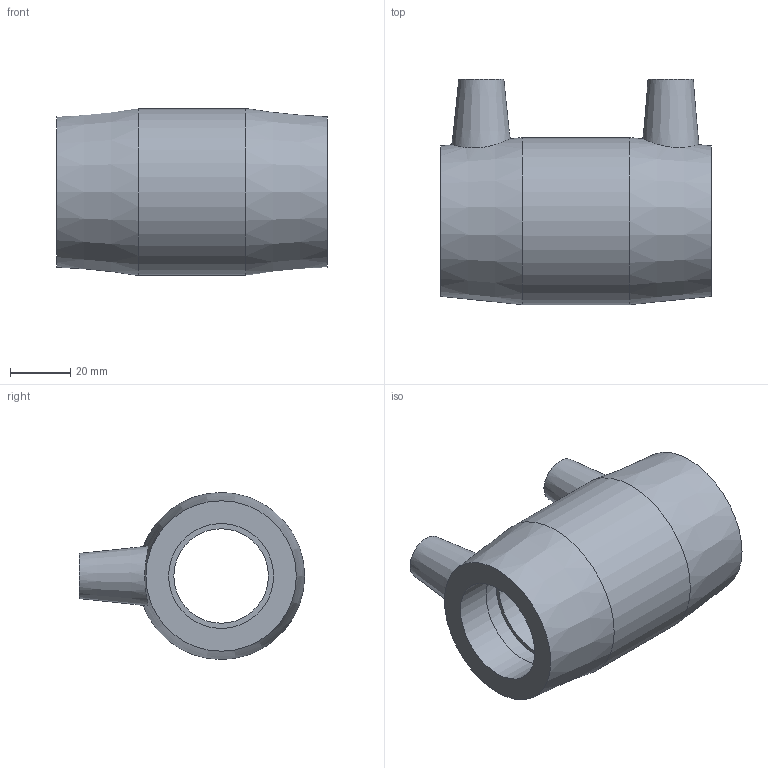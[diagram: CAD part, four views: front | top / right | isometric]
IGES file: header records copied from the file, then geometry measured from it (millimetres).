
Global section: file name: 5911BU03013013.ipt; native system: Autodesk Inventor 2019; preprocessor: unknown; author: KIM; date: 20210830.101027; units: inch
Bounding box: 89.66 x 74.68 x 55.37 mm (x, y, z)
Volume: 106015.2 mm3; surface area: 32360 mm2
Topology: 1 solids, 1 shells, 29 faces, 67 edges, 48 vertices
Faces by surface type: plane 12, revolution 9, cone 5, cylinder 3
Full cylindrical faces by diameter (mm): 4 x2, 55.372 x1
